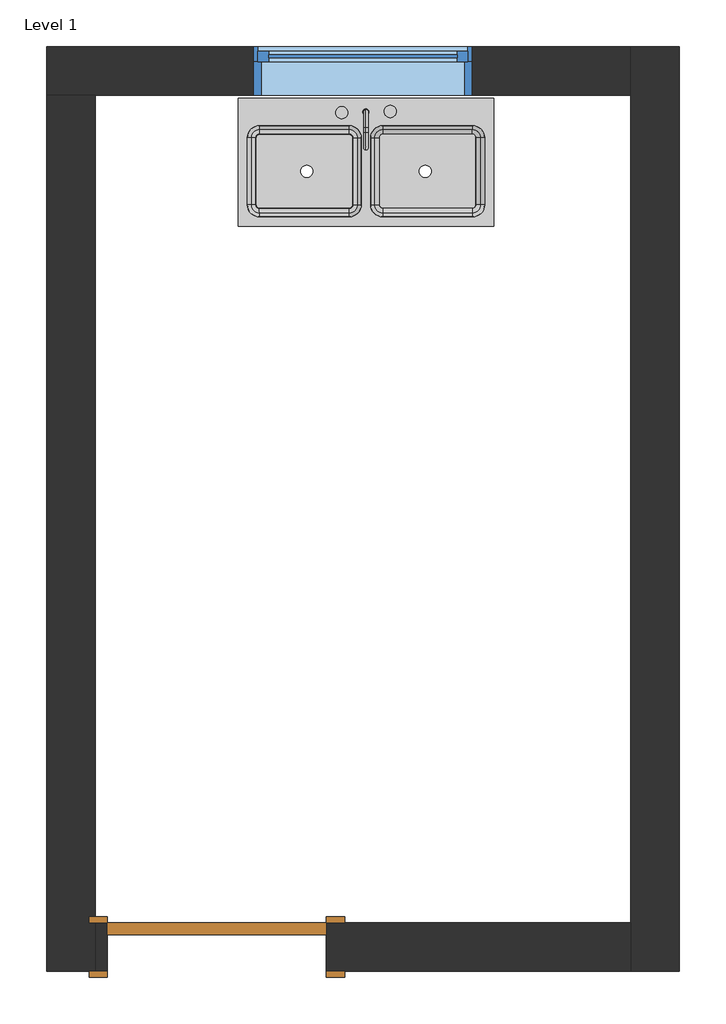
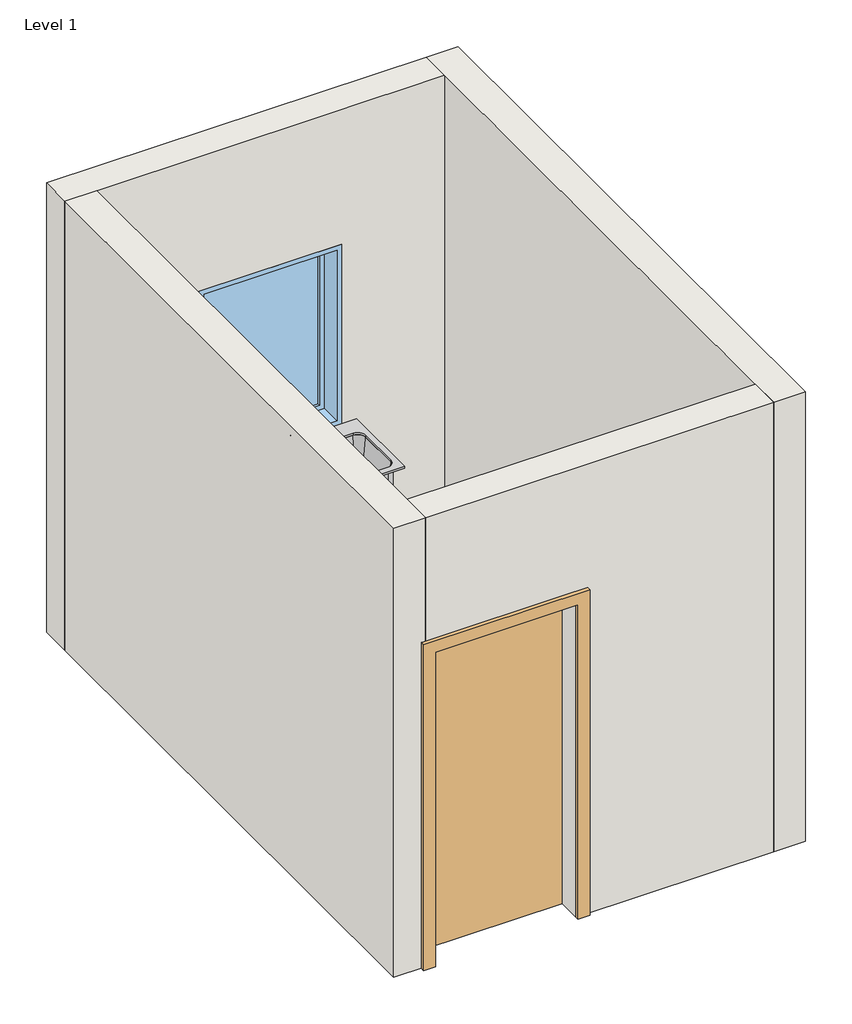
# One storey: 4 walls, 1 door, 1 flow terminal, 1 window.
"""IFC4 building model written with IfcOpenShell, lengths in millimetres."""

from ifc_helpers import new_model, si_unit, frame, origin, place, context, project, spatial, polyline, outline, extrude, faceted_brep, transform, mapped, element, save
from components import door_719f80de, flow_terminal_88eaddf2, window_e2841890

model = new_model("IFC4")

# Units and contexts
model_context = context("Model", 3, world=origin())
ifc_project = project(units=[si_unit("LENGTHUNIT", "METRE", prefix="MILLI")], contexts=[model_context])

# Site, building, storey
site = spatial("IfcSite", under=ifc_project)
building = spatial("IfcBuilding", under=site)
storey = spatial("IfcBuildingStorey", under=building, Name="Level 1", Elevation=0.0)

# Door
placement = place(None, origin())
door_shape = door_719f80de(model_context)
element("IfcDoor", 1, ObjectType="Single-Flush : 36\" x 84\"", at=placement, inside=storey, context=model_context, shape_type="MappedRepresentation", body=[
    mapped(door_shape, transform((-2555.0513488, 4196.5620945, 0.0), x_axis=(-0.9999999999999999, 0.0, 0.0), y_axis=(0.0, -0.9999999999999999, 0.0), z_axis=(0.0, 0.0, 1.0))),
])

# Flow terminal
flow_terminal_shape = flow_terminal_88eaddf2(model_context)
element("IfcFlowTerminal", 2, ObjectType="Sink Kitchen-Double : 42\" x 21\"", at=placement, inside=storey, context=model_context, shape_type="MappedRepresentation", body=[
    mapped(flow_terminal_shape, transform((-1948.4405894, 7470.8166934, 0.0), x_axis=(1.0, 0.0, 0.0), y_axis=(0.0, 1.0, 0.0), z_axis=(0.0, 0.0, 1.0))),
])

# Walls
element("IfcWall", 3, ObjectType="Generic - 8\"", at=placement, inside=storey, context=model_context, shape_type="Brep", body=[
    faceted_brep([(-3266.2513488, 7752.5620945, 0.0), (-3063.0513488, 7752.5620945, 0.0), (-827.8513488, 7752.5620945, 0.0), (-827.8513488, 7752.5620945, 3048.0), (-3063.0513488, 7752.5620945, 3048.0), (-3266.2513488, 7752.5620945, 3048.0), (-1488.2513488, 7752.5620945, 2133.6), (-1488.2513488, 7752.5620945, 914.4), (-2402.6513488, 7752.5620945, 914.4), (-2402.6513488, 7752.5620945, 2133.6), (-3266.2513488, 7955.7620945, 0.0), (-3266.2513488, 7955.7620945, 3048.0), (-827.8513488, 7955.7620945, 3048.0), (-827.8513488, 7955.7620945, 0.0), (-1488.2513488, 7955.7620945, 2133.6), (-2402.6513488, 7955.7620945, 2133.6), (-2402.6513488, 7955.7620945, 914.4), (-1488.2513488, 7955.7620945, 914.4)], [[[0, 1, 2, 3, 4, 5], [6, 7, 8, 9]], [[10, 11, 12, 13], [14, 15, 16, 17]], [[2, 1, 0, 10, 13]], [[5, 4, 3, 12, 11]], [[0, 5, 11, 10]], [[3, 2, 13, 12]], [[7, 6, 14, 17]], [[8, 7, 17, 16]], [[9, 8, 16, 15]], [[6, 9, 15, 14]]]),
])
element("IfcWall", 4, ObjectType="Generic - 8\"", at=placement, inside=storey, context=model_context, shape_type="Brep", body=[
    faceted_brep([(-3063.0513488, 4094.9620945, 0.0), (-3063.0513488, 4298.1620945, 0.0), (-3063.0513488, 7752.5620945, 0.0), (-3063.0513488, 7752.5620945, 3048.0), (-3063.0513488, 4298.1620945, 3048.0), (-3063.0513488, 4094.9620945, 3048.0), (-3266.2513488, 4094.9620945, 0.0), (-3266.2513488, 4094.9620945, 3048.0), (-3266.2513488, 7752.5620945, 3048.0), (-3266.2513488, 7752.5620945, 0.0)], [[[0, 1, 2, 3, 4, 5]], [[6, 7, 8, 9]], [[2, 1, 0, 6, 9]], [[5, 4, 3, 8, 7]], [[0, 5, 7, 6]], [[3, 2, 9, 8]]]),
])
element("IfcWall", 5, ObjectType="Generic - 8\"", at=placement, inside=storey, context=model_context, shape_type="SweptSolid", body=[
    extrude(outline(polyline([(0.0, -3063.0513488), (0.0, -3012.2513488), (2133.6, -3012.2513488), (2133.6, -2097.8513488), (0.0, -2097.8513488), (0.0, -827.8513488), (3048.0, -827.8513488), (3048.0, -3063.0513488), (0.0, -3063.0513488)])), frame((0.0, 4094.9620945, 0.0), z_axis=(0.0, 1.0, 0.0), x_axis=(0.0, 0.0, 1.0)), (0.0, 0.0, 1.0), 203.2),
])
element("IfcWall", 6, ObjectType="Generic - 8\"", at=placement, inside=storey, context=model_context, shape_type="Brep", body=[
    faceted_brep([(-827.8513488, 7955.7620945, 0.0), (-827.8513488, 7752.5620945, 0.0), (-827.8513488, 4298.1620945, 0.0), (-827.8513488, 4094.9620945, 0.0), (-827.8513488, 4094.9620945, 3048.0), (-827.8513488, 4298.1620945, 3048.0), (-827.8513488, 7752.5620945, 3048.0), (-827.8513488, 7955.7620945, 3048.0), (-624.6513488, 7955.7620945, 0.0), (-624.6513488, 7955.7620945, 3048.0), (-624.6513488, 4094.9620945, 3048.0), (-624.6513488, 4094.9620945, 0.0)], [[[0, 1, 2, 3, 4, 5, 6, 7]], [[8, 9, 10, 11]], [[3, 2, 1, 0, 8, 11]], [[7, 6, 5, 4, 10, 9]], [[0, 7, 9, 8]], [[4, 3, 11, 10]]]),
])

# Window
window_shape = window_e2841890(model_context)
element("IfcWindow", 7, ObjectType="Fixed : 36\" x 48\"", at=placement, inside=storey, context=model_context, shape_type="MappedRepresentation", body=[
    mapped(window_shape, transform((-1907.3513488, 7854.1620945, 0.0), x_axis=(0.9999999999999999, 0.0, 0.0), y_axis=(0.0, 0.9999999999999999, 0.0), z_axis=(0.0, 0.0, 1.0))),
])

save(model, "model.ifc")
